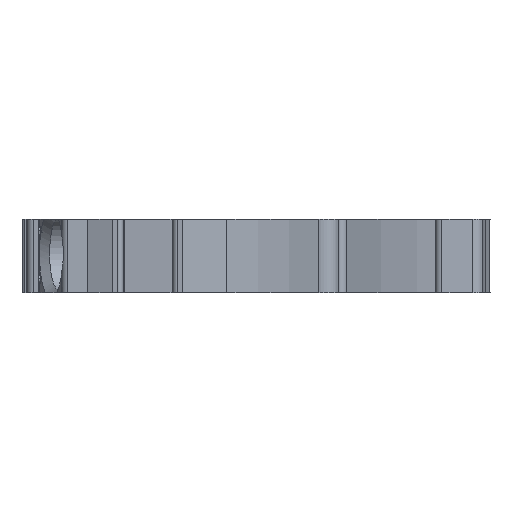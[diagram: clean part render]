
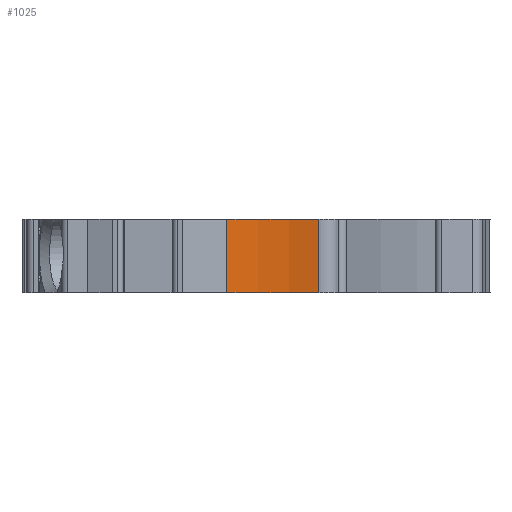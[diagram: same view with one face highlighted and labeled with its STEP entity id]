
A CAD part, left-side view. The second image highlights one B-rep face of the part: STEP entity #1025.
In plain terms, the highlighted cylindrical face has radius 18 mm (diameter 36 mm), a partial arc.
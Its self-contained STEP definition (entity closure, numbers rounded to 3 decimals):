
#1025 = ADVANCED_FACE( '', ( #2109 ), #2110, .F. );
#2109 = FACE_OUTER_BOUND( '', #3242, .T. );
#2110 = CYLINDRICAL_SURFACE( '', #3243, 18. );
#3242 = EDGE_LOOP( '', ( #6545, #6546, #6547, #6548 ) );
#3243 = AXIS2_PLACEMENT_3D( '', #6549, #6550, #6551 );
#6545 = ORIENTED_EDGE( '', *, *, #8253, .F. );
#6546 = ORIENTED_EDGE( '', *, *, #8157, .F. );
#6547 = ORIENTED_EDGE( '', *, *, #7285, .T. );
#6548 = ORIENTED_EDGE( '', *, *, #8121, .T. );
#6549 = CARTESIAN_POINT( '', ( -59.933, 12.092, 6.2 ) );
#6550 = DIRECTION( '', ( 0., 0., 1. ) );
#6551 = DIRECTION( '', ( -1., 0., 0. ) );
#7285 = EDGE_CURVE( '', #8903, #8901, #8904, .T. );
#8121 = EDGE_CURVE( '', #8901, #10226, #10228, .T. );
#8157 = EDGE_CURVE( '', #8903, #10272, #10276, .T. );
#8253 = EDGE_CURVE( '', #10272, #10226, #10412, .T. );
#8901 = VERTEX_POINT( '', #11263 );
#8903 = VERTEX_POINT( '', #11266 );
#8904 = CIRCLE( '', #11267, 18. );
#10226 = VERTEX_POINT( '', #13396 );
#10228 = LINE( '', #13399, #13400 );
#10272 = VERTEX_POINT( '', #13462 );
#10276 = LINE( '', #13467, #13468 );
#10412 = CIRCLE( '', #13691, 18. );
#11263 = CARTESIAN_POINT( '', ( -42.207, 15.217, 6.2 ) );
#11266 = CARTESIAN_POINT( '', ( -42.546, 7.436, 6.2 ) );
#11267 = AXIS2_PLACEMENT_3D( '', #14428, #14429, #14430 );
#13396 = CARTESIAN_POINT( '', ( -42.207, 15.217, 0. ) );
#13399 = CARTESIAN_POINT( '', ( -42.207, 15.217, 6.2 ) );
#13400 = VECTOR( '', #15406, 1000. );
#13462 = CARTESIAN_POINT( '', ( -42.546, 7.436, 0. ) );
#13467 = CARTESIAN_POINT( '', ( -42.546, 7.436, 6.2 ) );
#13468 = VECTOR( '', #15447, 1000. );
#13691 = AXIS2_PLACEMENT_3D( '', #15587, #15588, #15589 );
#14428 = CARTESIAN_POINT( '', ( -59.933, 12.092, 6.2 ) );
#14429 = DIRECTION( '', ( 0., 0., 1. ) );
#14430 = DIRECTION( '', ( 1., 0., 0. ) );
#15406 = DIRECTION( '', ( 0., 0., -1. ) );
#15447 = DIRECTION( '', ( 0., 0., -1. ) );
#15587 = CARTESIAN_POINT( '', ( -59.933, 12.092, 0. ) );
#15588 = DIRECTION( '', ( 0., 0., 1. ) );
#15589 = DIRECTION( '', ( 1., 0., 0. ) );
